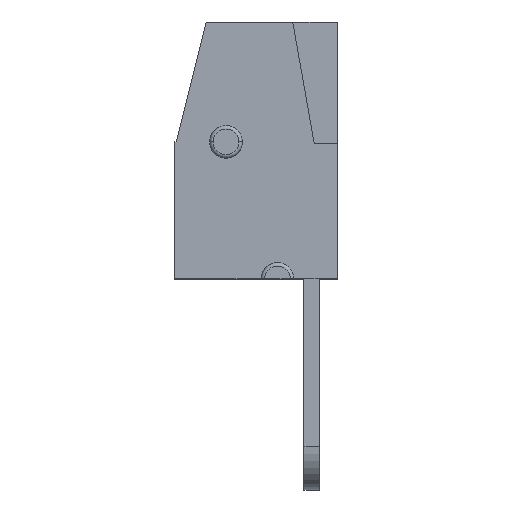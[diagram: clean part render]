
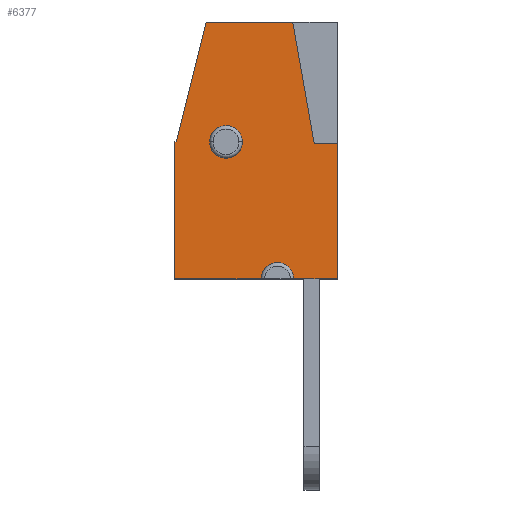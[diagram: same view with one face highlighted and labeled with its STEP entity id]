
A CAD part, top view. The second image highlights one B-rep face of the part: STEP entity #6377.
In plain terms, the highlighted planar face has unit normal (0, 0, 1).
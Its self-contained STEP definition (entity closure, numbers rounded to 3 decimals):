
#332=DIRECTION('',(1.,0.,0.));
#333=VECTOR('',#332,2.55);
#334=CARTESIAN_POINT('',(-2.55,0.,7.5));
#335=LINE('',#334,#333);
#594=DIRECTION('',(1.,0.,0.));
#595=VECTOR('',#594,5.05);
#596=CARTESIAN_POINT('',(-9.5,0.,7.5));
#597=LINE('',#596,#595);
#625=CARTESIAN_POINT('',(-3.5,0.,7.5));
#626=DIRECTION('',(0.,0.,1.));
#627=DIRECTION('',(1.,0.,0.));
#628=AXIS2_PLACEMENT_3D('',#625,#626,#627);
#630=DIRECTION('',(0.,1.,0.));
#631=VECTOR('',#630,8.);
#632=CARTESIAN_POINT('',(-9.5,0.,7.5));
#633=LINE('',#632,#631);
#634=DIRECTION('',(1.,0.,0.));
#635=VECTOR('',#634,0.1);
#636=CARTESIAN_POINT('',(-9.5,8.,7.5));
#637=LINE('',#636,#635);
#638=DIRECTION('',(0.242,0.97,0.));
#639=VECTOR('',#638,7.214);
#640=CARTESIAN_POINT('',(-9.4,8.,7.5));
#641=LINE('',#640,#639);
#642=DIRECTION('',(1.,0.,0.));
#643=VECTOR('',#642,5.053);
#644=CARTESIAN_POINT('',(-7.655,15.,7.5));
#645=LINE('',#644,#643);
#646=DIRECTION('',(0.174,-0.985,0.));
#647=VECTOR('',#646,7.21);
#648=CARTESIAN_POINT('',(-2.602,15.,7.5));
#649=LINE('',#648,#647);
#650=DIRECTION('',(1.,0.,0.));
#651=VECTOR('',#650,1.35);
#652=CARTESIAN_POINT('',(-1.35,7.9,7.5));
#653=LINE('',#652,#651);
#654=DIRECTION('',(0.,-1.,0.));
#655=VECTOR('',#654,7.9);
#656=CARTESIAN_POINT('',(0.,7.9,7.5));
#657=LINE('',#656,#655);
#658=CARTESIAN_POINT('',(-6.5,8.,7.5));
#659=DIRECTION('',(0.,0.,1.));
#660=DIRECTION('',(1.,0.,0.));
#661=AXIS2_PLACEMENT_3D('',#658,#659,#660);
#663=CARTESIAN_POINT('',(-6.5,8.,7.5));
#664=DIRECTION('',(0.,0.,1.));
#665=DIRECTION('',(-1.,0.,0.));
#666=AXIS2_PLACEMENT_3D('',#663,#664,#665);
#4470=CARTESIAN_POINT('',(-2.55,0.,7.5));
#4471=VERTEX_POINT('',#4470);
#4472=CARTESIAN_POINT('',(0.,0.,7.5));
#4473=VERTEX_POINT('',#4472);
#4606=CARTESIAN_POINT('',(-9.5,0.,7.5));
#4607=VERTEX_POINT('',#4606);
#4608=CARTESIAN_POINT('',(-4.45,0.,7.5));
#4609=VERTEX_POINT('',#4608);
#4616=CARTESIAN_POINT('',(-9.5,8.,7.5));
#4617=VERTEX_POINT('',#4616);
#4618=CARTESIAN_POINT('',(-9.4,8.,7.5));
#4619=VERTEX_POINT('',#4618);
#4620=CARTESIAN_POINT('',(-7.655,15.,7.5));
#4621=VERTEX_POINT('',#4620);
#4622=CARTESIAN_POINT('',(-2.602,15.,7.5));
#4623=VERTEX_POINT('',#4622);
#4624=CARTESIAN_POINT('',(-1.35,7.9,7.5));
#4625=VERTEX_POINT('',#4624);
#4626=CARTESIAN_POINT('',(0.,7.9,7.5));
#4627=VERTEX_POINT('',#4626);
#4628=CARTESIAN_POINT('',(-5.55,8.,7.5));
#4629=CARTESIAN_POINT('',(-7.45,8.,7.5));
#4630=VERTEX_POINT('',#4628);
#4631=VERTEX_POINT('',#4629);
#6347=CARTESIAN_POINT('',(-4.75,7.5,7.5));
#6348=DIRECTION('',(0.,0.,1.));
#6349=DIRECTION('',(1.,0.,0.));
#6350=AXIS2_PLACEMENT_3D('',#6347,#6348,#6349);
#6351=PLANE('',#6350);
#6352=ORIENTED_EDGE('',*,*,#6341,.T.);
#6353=ORIENTED_EDGE('',*,*,#6306,.F.);
#6355=ORIENTED_EDGE('',*,*,#6354,.T.);
#6357=ORIENTED_EDGE('',*,*,#6356,.T.);
#6359=ORIENTED_EDGE('',*,*,#6358,.T.);
#6361=ORIENTED_EDGE('',*,*,#6360,.T.);
#6363=ORIENTED_EDGE('',*,*,#6362,.T.);
#6365=ORIENTED_EDGE('',*,*,#6364,.T.);
#6367=ORIENTED_EDGE('',*,*,#6366,.T.);
#6368=ORIENTED_EDGE('',*,*,#6168,.F.);
#6369=EDGE_LOOP('',(#6352,#6353,#6355,#6357,#6359,#6361,#6363,#6365,#6367,
#6368));
#6370=FACE_OUTER_BOUND('',#6369,.F.);
#6372=ORIENTED_EDGE('',*,*,#6371,.T.);
#6374=ORIENTED_EDGE('',*,*,#6373,.T.);
#6375=EDGE_LOOP('',(#6372,#6374));
#6376=FACE_BOUND('',#6375,.F.);
#6377=ADVANCED_FACE('',(#6370,#6376),#6351,.T.);
#629=CIRCLE('',#628,0.95);
#662=CIRCLE('',#661,0.95);
#667=CIRCLE('',#666,0.95);
#6168=EDGE_CURVE('',#4471,#4473,#335,.T.);
#6306=EDGE_CURVE('',#4607,#4609,#597,.T.);
#6341=EDGE_CURVE('',#4471,#4609,#629,.T.);
#6354=EDGE_CURVE('',#4607,#4617,#633,.T.);
#6356=EDGE_CURVE('',#4617,#4619,#637,.T.);
#6358=EDGE_CURVE('',#4619,#4621,#641,.T.);
#6360=EDGE_CURVE('',#4621,#4623,#645,.T.);
#6362=EDGE_CURVE('',#4623,#4625,#649,.T.);
#6364=EDGE_CURVE('',#4625,#4627,#653,.T.);
#6366=EDGE_CURVE('',#4627,#4473,#657,.T.);
#6371=EDGE_CURVE('',#4630,#4631,#662,.T.);
#6373=EDGE_CURVE('',#4631,#4630,#667,.T.);
